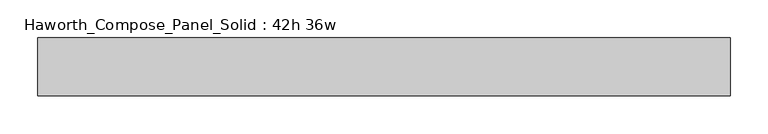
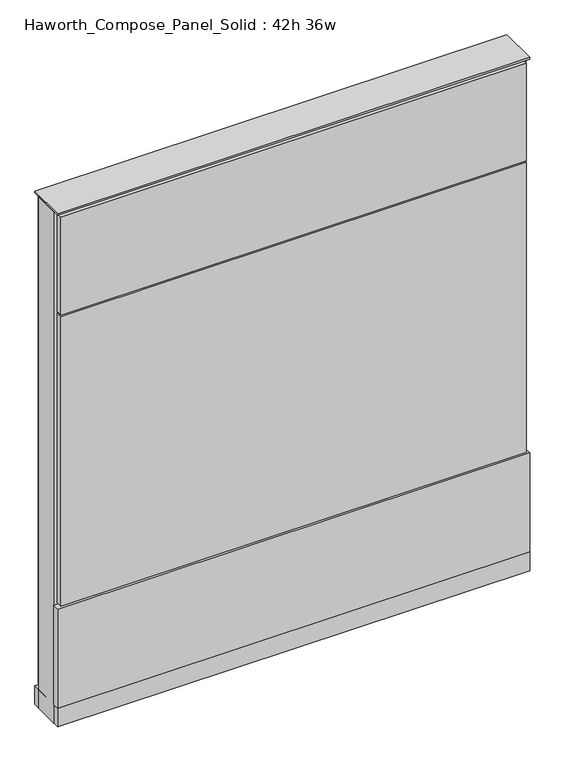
"""IFC4 building model written with IfcOpenShell, lengths in millimetres: furniture geometry, Haworth_Compose_Panel_Solid : 42h 36w."""

from ifc_helpers import new_model, si_unit, point, frame, frame_2d, origin, origin_with_axes, place, context, project, spatial, polyline, circle_curve, trimmed, segment, composite_curve, outline, extrude, source, transform, mapped, element, save


def haworth_compose_panel_solid_42h_36w_34ccc55c(model_context):
    return source(origin(), model_context, "Body", "SweptSolid", [
        extrude(outline(composite_curve([segment(trimmed(circle_curve(frame_2d((-378.5597098, 0.0)), 12.7), [point((-391.2597098, 0.0))], [point((-365.8597098, 0.0))], False, "CARTESIAN"), True, "CONTINUOUS"), segment(trimmed(circle_curve(frame_2d((-378.5597098, 0.0)), 12.7), [point((-365.8597098, 0.0))], [point((-391.2597098, 0.0))], False, "CARTESIAN"), True, "CONTINUOUS")], self_intersect=False)), origin_with_axes(), (0.0, 0.0, 1.0), 12.7),
        extrude(outline(composite_curve([segment(trimmed(circle_curve(frame_2d((383.4402902, 0.0)), 12.7), [point((370.7402902, 0.0))], [point((396.1402902, 0.0))], False, "CARTESIAN"), True, "CONTINUOUS"), segment(trimmed(circle_curve(frame_2d((383.4402902, 0.0)), 12.7), [point((396.1402902, 0.0))], [point((370.7402902, 0.0))], False, "CARTESIAN"), True, "CONTINUOUS")], self_intersect=False)), origin_with_axes(), (0.0, 0.0, 1.0), 12.7),
        extrude(outline(polyline([(453.2902902, 38.1), (453.2902902, 25.4), (-448.4097098, 25.4), (-448.4097098, 38.1), (453.2902902, 38.1)])), frame((0.0, 0.0, 53.975), z_axis=(0.0, 0.0, 1.0), x_axis=(1.0, 0.0, 0.0)), (0.0, 0.0, 1.0), 1000.125),
        extrude(outline(polyline([(459.6402902, -38.1), (-454.7597098, -38.1), (-454.7597098, -25.4), (459.6402902, -25.4), (459.6402902, -38.1)])), frame((0.0, 0.0, 50.8), z_axis=(0.0, 0.0, 1.0), x_axis=(1.0, 0.0, 0.0)), (0.0, 0.0, 1.0), 203.2),
        extrude(outline(polyline([(453.2902902, -38.1), (-448.4097098, -38.1), (-448.4097098, -25.4), (453.2902902, -25.4), (453.2902902, -38.1)])), frame((0.0, 0.0, 854.075), z_axis=(0.0, 0.0, 1.0), x_axis=(1.0, 0.0, 0.0)), (0.0, 0.0, 1.0), 200.025),
        extrude(outline(polyline([(453.2902902, -38.1), (-448.4097098, -38.1), (-448.4097098, -25.4), (453.2902902, -25.4), (453.2902902, -38.1)])), frame((0.0, 0.0, 257.175), z_axis=(0.0, 0.0, 1.0), x_axis=(1.0, 0.0, 0.0)), (0.0, 0.0, 1.0), 593.725),
        extrude(outline(polyline([(459.6402902, 25.4), (459.6402902, -25.4), (-454.7597098, -25.4), (-454.7597098, 25.4), (459.6402902, 25.4)])), frame((0.0, 0.0, 12.7), z_axis=(0.0, 0.0, 1.0), x_axis=(1.0, 0.0, 0.0)), (0.0, 0.0, 1.0), 1047.75),
        extrude(outline(polyline([(-454.7597098, -38.1), (-454.7597098, 38.1), (459.6402902, 38.1), (459.6402902, -38.1), (-454.7597098, -38.1)])), frame((0.0, 0.0, 12.7), z_axis=(0.0, 0.0, 1.0), x_axis=(1.0, 0.0, 0.0)), (0.0, 0.0, 1.0), 38.1),
        extrude(outline(polyline([(-454.7597098, -38.1), (-454.7597098, 38.1), (459.6402902, 38.1), (459.6402902, -38.1), (-454.7597098, -38.1)])), frame((0.0, 0.0, 1060.45), z_axis=(0.0, 0.0, 1.0), x_axis=(1.0, 0.0, 0.0)), (0.0, 0.0, 1.0), 3.175),
    ])


if __name__ == "__main__":
    model = new_model("IFC4")
    model_context = context("Model", 3, world=origin())
    ifc_project = project(units=[si_unit("LENGTHUNIT", "METRE", prefix="MILLI")], contexts=[model_context])
    site = spatial("IfcSite", under=ifc_project)
    building = spatial("IfcBuilding", under=site)
    placement = place(None, origin())
    haworth_compose_panel_solid_42h_36w_shape = haworth_compose_panel_solid_42h_36w_34ccc55c(model_context)
    element("IfcFurniture", 1, ObjectType="Haworth_Compose_Panel_Solid : 42h 36w", at=placement, inside=building, context=model_context, shape_type="MappedRepresentation", body=[
        mapped(haworth_compose_panel_solid_42h_36w_shape, transform((0.0, 0.0, 0.0), x_axis=(1.0, 0.0, 0.0), y_axis=(0.0, 1.0, 0.0), z_axis=(0.0, 0.0, 1.0))),
    ])
    save(model, "model.ifc")
